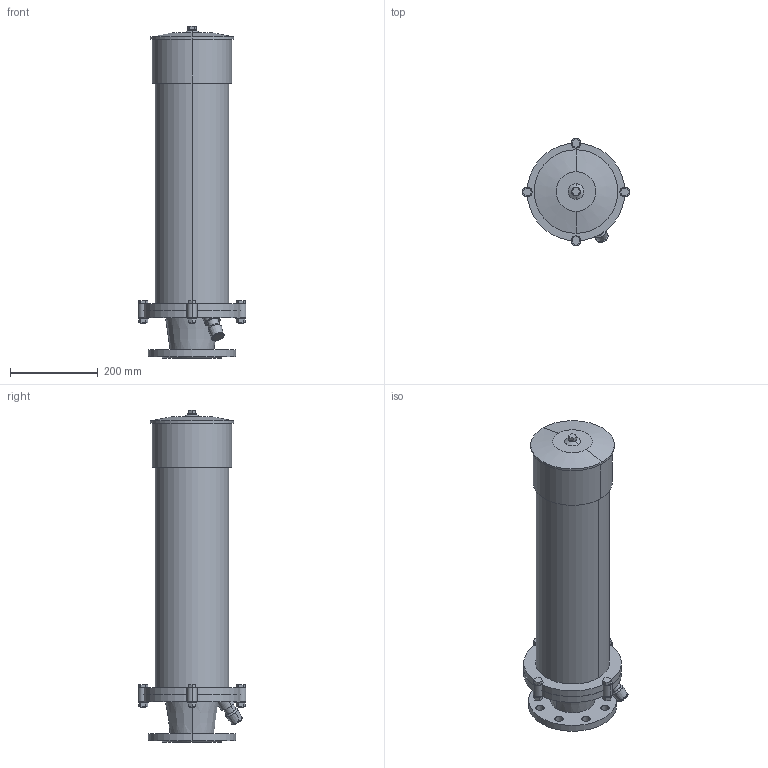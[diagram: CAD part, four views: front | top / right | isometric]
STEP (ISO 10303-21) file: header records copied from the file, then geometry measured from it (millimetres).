
FILE_DESCRIPTION(('STEP AP214'),'1');
FILE_NAME('S:/EK/USER/CAT6/3DHomepage/9822/9822-PN16-DN80-755.STP','2012-04-26T08:07:20',(' '),(' '),'Spatial InterOp 3D',' ',' ');
FILE_SCHEMA(('automotive_design'));
Length unit declared in the file: millimetre
Products named in the file (37): 3D-Objekt
Bounding box: 245 x 245 x 755 mm (x, y, z)
Volume: 16461618.1 mm3; surface area: 895472.1 mm2
Topology: 37 solids, 37 shells, 204 faces, 392 edges, 260 vertices
Faces by surface type: plane 126, cylinder 62, cone 12, torus 4
Entity records: 7729 total; most frequent: DIRECTION 1030, CARTESIAN_POINT 893, ORIENTED_EDGE 784, AXIS2_PLACEMENT_3D 397, EDGE_CURVE 392, VERTEX_POINT 260, STYLED_ITEM 241, PRESENTATION_STYLE_ASSIGNMENT 241
